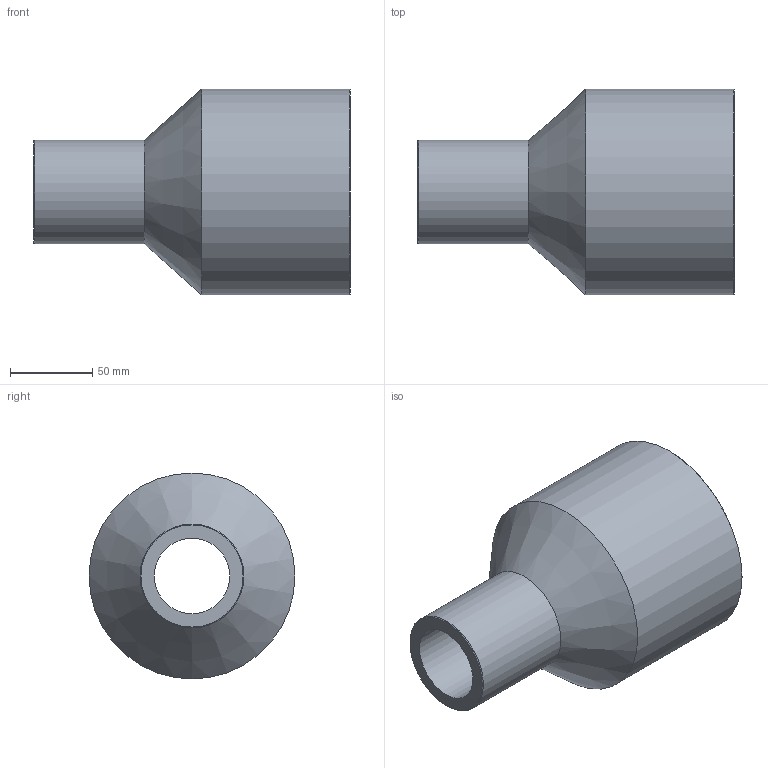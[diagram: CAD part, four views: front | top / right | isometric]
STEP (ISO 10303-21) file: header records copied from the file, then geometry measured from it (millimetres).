
FILE_DESCRIPTION(/* description */ ('Unknown'),/* implementation_level */ '2;1');
FILE_NAME(/* name */ 'RP125063H',/* time_stamp */ '2021-09-16T12:17:44+02:00',/* author */ ('Unknown'),/* organization */ ('Unknown'),/* preprocessor_version */ 'ST-DEVELOPER v16.7',/* originating_system */ 'Solid Edge',/* authorisation */ 'Unknown');
FILE_SCHEMA (('AUTOMOTIVE_DESIGN {1 0 10303 214 3 1 1}'));
Length unit declared in the file: millimetre
Products named in the file (1): RP125063H
Bounding box: 192 x 125 x 125 mm (x, y, z)
Volume: 770559.7 mm3; surface area: 112792.4 mm2
Topology: 1 solids, 1 shells, 10 faces, 19 edges, 11 vertices
Faces by surface type: cylinder 4, cone 4, plane 2
Full cylindrical faces by diameter (mm): 45.8 x1, 63 x1, 90.8 x1, 125 x1
Entity records: 238 total; most frequent: DIRECTION 42, CARTESIAN_POINT 31, AXIS2_PLACEMENT_3D 21, ORIENTED_EDGE 20, EDGE_LOOP 20, FACE_BOUND 20, EDGE_CURVE 10, VERTEX_POINT 10
